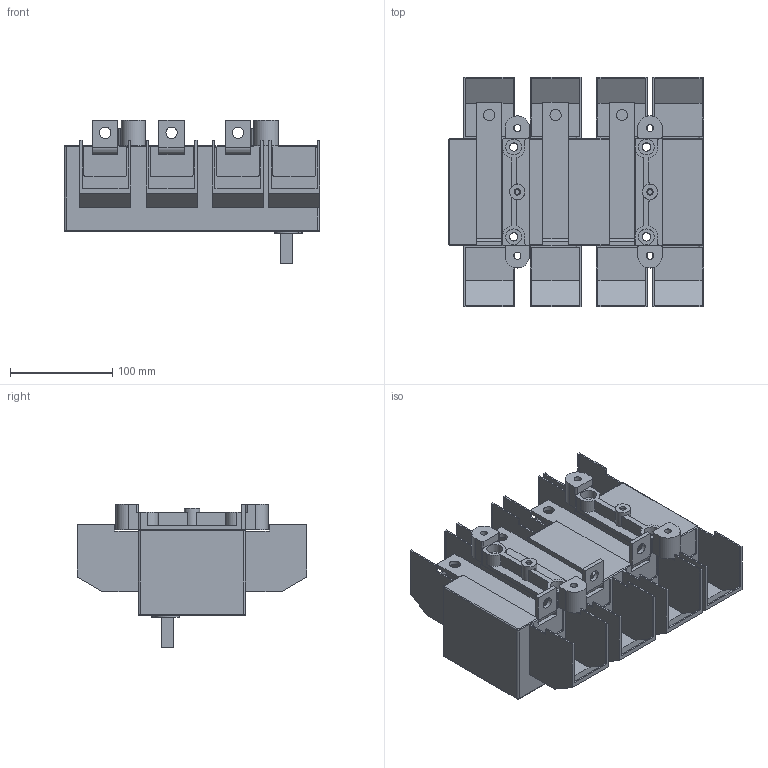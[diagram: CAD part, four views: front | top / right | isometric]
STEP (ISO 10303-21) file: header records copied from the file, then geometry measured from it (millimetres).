
FILE_DESCRIPTION(/* description */ (''),/* implementation_level */ '2;1');
FILE_NAME(/* name */ 'RA400 P3 A z oslona zaciskow.stp',/* time_stamp */ '2021-08-18T14:14:21+02:00',/* author */ (''),/* organization */ (''),/* preprocessor_version */ 'ST-DEVELOPER v18.1',/* originating_system */ 'SIEMENS PLM Software NX 1965',/* authorisation */ '');
FILE_SCHEMA (('AUTOMOTIVE_DESIGN { 1 0 10303 214 3 1 1 1 }'));
Length unit declared in the file: millimetre
Products named in the file (1): RA400 P3 A z oslona zaciskow_stp
Bounding box: 250 x 225 x 141 mm (x, y, z)
Volume: 2393919.8 mm3; surface area: 329797.3 mm2
Topology: 1 solids, 1 shells, 420 faces, 1154 edges, 756 vertices
Faces by surface type: plane 306, cylinder 106, torus 5, bspline 3
Full cylindrical faces by diameter (mm): 4.8 x2, 6.2 x2, 7 x4, 8.2 x4, 11 x6, 14 x4, 15 x2, 15.5 x4
Entity records: 13185 total; most frequent: CARTESIAN_POINT 2362, ORIENTED_EDGE 2244, DIRECTION 2188, EDGE_CURVE 1122, LINE 888, VECTOR 888, VERTEX_POINT 752, AXIS2_PLACEMENT_3D 650
